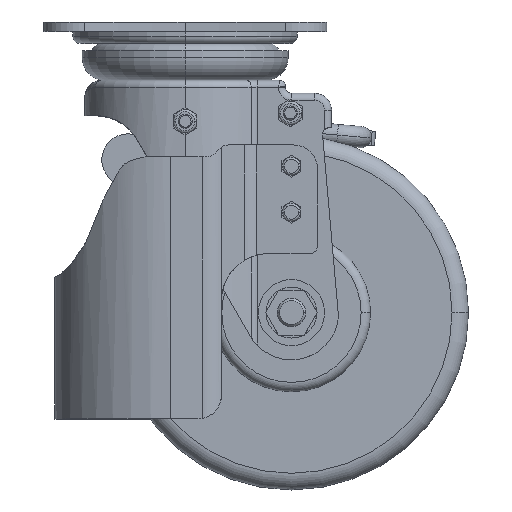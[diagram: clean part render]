
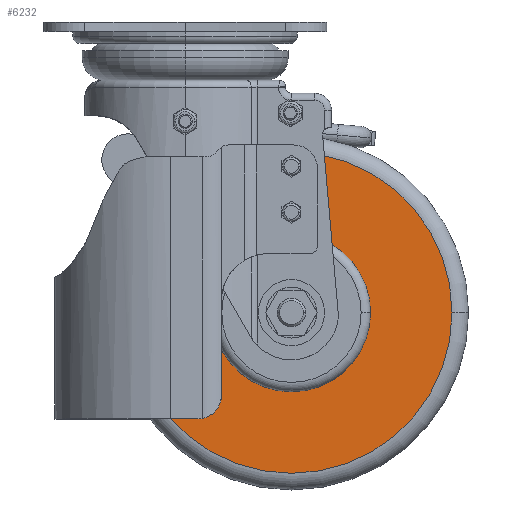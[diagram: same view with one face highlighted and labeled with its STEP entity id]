
A CAD part, top view. The second image highlights one B-rep face of the part: STEP entity #6232.
In plain terms, the highlighted planar face has unit normal (0, 0, 1).
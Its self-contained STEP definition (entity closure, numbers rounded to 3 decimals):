
#61 = DIRECTION ( 'NONE',  ( 0., 0., 1. ) ) ;
#213 = FACE_BOUND ( 'NONE', #2640, .T. ) ;
#395 = CARTESIAN_POINT ( 'NONE',  ( 33.5, 0., 22. ) ) ;
#418 = CARTESIAN_POINT ( 'NONE',  ( 0., 0., 22. ) ) ;
#505 = PLANE ( 'NONE',  #10461 ) ;
#613 = ORIENTED_EDGE ( 'NONE', *, *, #730, .F. ) ;
#730 = EDGE_CURVE ( 'NONE', #3056, #3066, #5542, .T. ) ;
#764 = DIRECTION ( 'NONE',  ( 0., 0., 1. ) ) ;
#778 = DIRECTION ( 'NONE',  ( 1., 0., 0. ) ) ;
#1151 = ORIENTED_EDGE ( 'NONE', *, *, #9969, .T. ) ;
#1676 = EDGE_CURVE ( 'NONE', #10704, #6824, #8378, .T. ) ;
#2560 = AXIS2_PLACEMENT_3D ( 'NONE', #418, #61, #11267 ) ;
#2640 = EDGE_LOOP ( 'NONE', ( #613, #8489 ) ) ;
#2868 = CARTESIAN_POINT ( 'NONE',  ( 0., 0., 22. ) ) ;
#3056 = VERTEX_POINT ( 'NONE', #6263 ) ;
#3066 = VERTEX_POINT ( 'NONE', #6434 ) ;
#5542 = CIRCLE ( 'NONE', #6808, 33.5 ) ;
#5858 = AXIS2_PLACEMENT_3D ( 'NONE', #2868, #8142, #7627 ) ;
#6189 = CARTESIAN_POINT ( 'NONE',  ( -68., 0., 22. ) ) ;
#6232 = ADVANCED_FACE ( 'NONE', ( #11213, #213 ), #505, .T. ) ;
#6263 = CARTESIAN_POINT ( 'NONE',  ( 33.5, 0., 22. ) ) ;
#6434 = CARTESIAN_POINT ( 'NONE',  ( -33.5, 0., 22. ) ) ;
#6808 = AXIS2_PLACEMENT_3D ( 'NONE', #7726, #10750, #10102 ) ;
#6824 = VERTEX_POINT ( 'NONE', #6189 ) ;
#7187 = CIRCLE ( 'NONE', #2560, 33.5 ) ;
#7627 = DIRECTION ( 'NONE',  ( 1., 0., 0. ) ) ;
#7726 = CARTESIAN_POINT ( 'NONE',  ( 0., 0., 22. ) ) ;
#8142 = DIRECTION ( 'NONE',  ( 0., 0., 1. ) ) ;
#8378 = CIRCLE ( 'NONE', #5858, 68. ) ;
#8489 = ORIENTED_EDGE ( 'NONE', *, *, #11160, .F. ) ;
#8746 = CIRCLE ( 'NONE', #9515, 68. ) ;
#9062 = CARTESIAN_POINT ( 'NONE',  ( 68., 0., 22. ) ) ;
#9515 = AXIS2_PLACEMENT_3D ( 'NONE', #10407, #10347, #10331 ) ;
#9969 = EDGE_CURVE ( 'NONE', #6824, #10704, #8746, .T. ) ;
#10102 = DIRECTION ( 'NONE',  ( 1., 0., 0. ) ) ;
#10331 = DIRECTION ( 'NONE',  ( 1., 0., 0. ) ) ;
#10347 = DIRECTION ( 'NONE',  ( 0., 0., 1. ) ) ;
#10407 = CARTESIAN_POINT ( 'NONE',  ( 0., 0., 22. ) ) ;
#10461 = AXIS2_PLACEMENT_3D ( 'NONE', #395, #764, #778 ) ;
#10704 = VERTEX_POINT ( 'NONE', #9062 ) ;
#10750 = DIRECTION ( 'NONE',  ( 0., 0., 1. ) ) ;
#10846 = EDGE_LOOP ( 'NONE', ( #11035, #1151 ) ) ;
#11035 = ORIENTED_EDGE ( 'NONE', *, *, #1676, .T. ) ;
#11160 = EDGE_CURVE ( 'NONE', #3066, #3056, #7187, .T. ) ;
#11213 = FACE_OUTER_BOUND ( 'NONE', #10846, .T. ) ;
#11267 = DIRECTION ( 'NONE',  ( 1., 0., 0. ) ) ;
